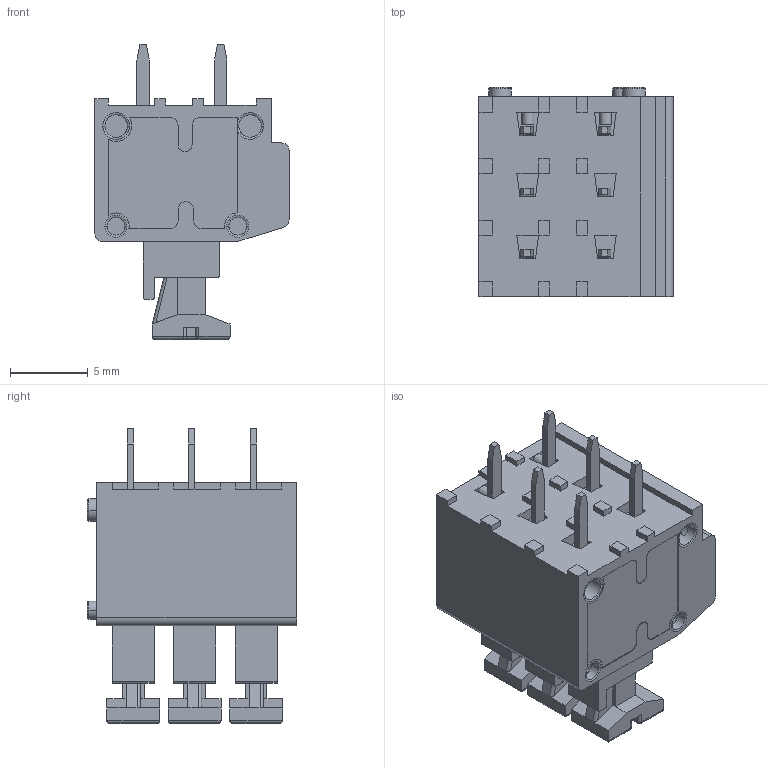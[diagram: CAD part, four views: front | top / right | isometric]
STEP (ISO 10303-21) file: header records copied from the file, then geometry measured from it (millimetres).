
FILE_DESCRIPTION((''),'2;1');
FILE_NAME('333','2019-04-15T',('zhenbing.lai'),(''),'CREO PARAMETRIC BY PTC INC, 2016260','CREO PARAMETRIC BY PTC INC, 2016260','');
FILE_SCHEMA(('CONFIG_CONTROL_DESIGN'));
Length unit declared in the file: millimetre
Products named in the file (1): 333
Bounding box: 12.5 x 13.48 x 19 mm (x, y, z)
Volume: 1456.6 mm3; surface area: 1494 mm2
Topology: 1 solids, 6 shells, 465 faces, 1234 edges, 803 vertices
Faces by surface type: plane 319, cylinder 111, torus 15, cone 14, sphere 6
Entity records: 14585 total; most frequent: CARTESIAN_POINT 2961, ORIENTED_EDGE 2456, DIRECTION 2323, EDGE_CURVE 1228, VECTOR 905, LINE 905, VERTEX_POINT 803, AXIS2_PLACEMENT_3D 709
